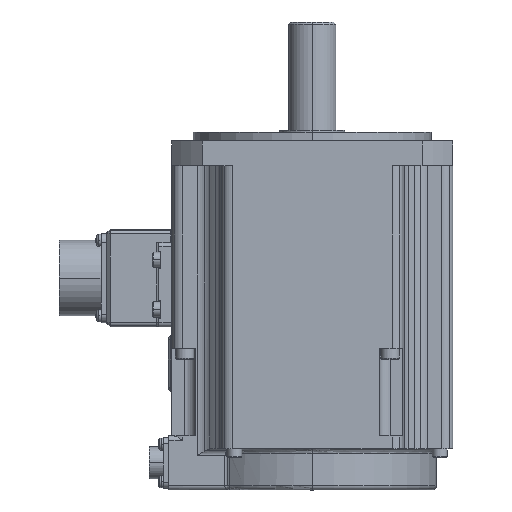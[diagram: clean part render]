
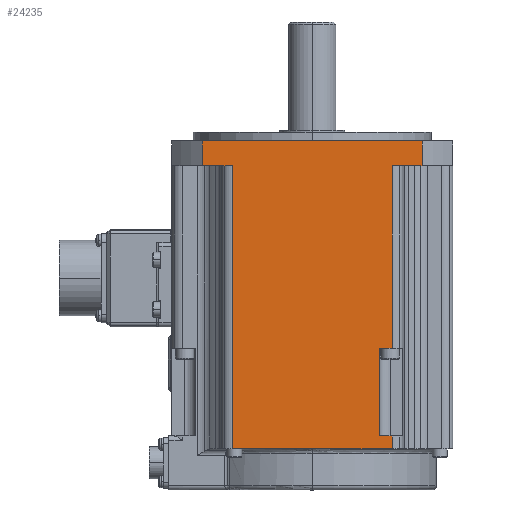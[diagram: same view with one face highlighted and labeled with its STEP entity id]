
A CAD part, left-side view. The second image highlights one B-rep face of the part: STEP entity #24235.
In plain terms, the highlighted planar face has unit normal (-1, 0, 0).
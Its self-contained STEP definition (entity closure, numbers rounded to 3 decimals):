
#21687=CARTESIAN_POINT('',(-65.,-31.,-136.5));
#21688=VERTEX_POINT('',#21687);
#21695=CARTESIAN_POINT('',(-65.,-37.,-136.5));
#21696=VERTEX_POINT('',#21695);
#21697=CARTESIAN_POINT('',(-65.,-37.,-136.5));
#21698=DIRECTION('',(0.,1.0,0.));
#21699=VECTOR('',#21698,6.);
#21700=LINE('',#21697,#21699);
#21701=EDGE_CURVE('',#21696,#21688,#21700,.T.);
#22686=CARTESIAN_POINT('',(-65.,-37.,-142.5));
#22687=VERTEX_POINT('',#22686);
#22695=CARTESIAN_POINT('',(-65.,37.,-142.5));
#22696=VERTEX_POINT('',#22695);
#22697=CARTESIAN_POINT('',(-65.,37.,-142.5));
#22698=DIRECTION('',(0.0,-1.0,0.0));
#22699=VECTOR('',#22698,74.0);
#22700=LINE('',#22697,#22699);
#22701=EDGE_CURVE('',#22696,#22687,#22700,.T.);
#22898=CARTESIAN_POINT('',(-65.,-37.,-136.5));
#22899=DIRECTION('',(0.0,0.0,-1.0));
#22900=VECTOR('',#22899,6.0);
#22901=LINE('',#22898,#22900);
#22902=EDGE_CURVE('',#21696,#22687,#22901,.T.);
#23583=CARTESIAN_POINT('',(-65.,-31.,-96.));
#23584=VERTEX_POINT('',#23583);
#23593=CARTESIAN_POINT('',(-65.,-31.,-136.5));
#23594=DIRECTION('',(0.0,0.0,1.0));
#23595=VECTOR('',#23594,40.5);
#23596=LINE('',#23593,#23595);
#23597=EDGE_CURVE('',#21688,#23584,#23596,.T.);
#23663=CARTESIAN_POINT('',(-65.,-37.,-96.));
#23664=VERTEX_POINT('',#23663);
#23665=CARTESIAN_POINT('',(-65.,-31.,-96.));
#23666=DIRECTION('',(0.0,-1.0,0.0));
#23667=VECTOR('',#23666,6.);
#23668=LINE('',#23665,#23667);
#23669=EDGE_CURVE('',#23584,#23664,#23668,.T.);
#24157=CARTESIAN_POINT('',(-65.,-37.,-11.5));
#24158=VERTEX_POINT('',#24157);
#24166=CARTESIAN_POINT('',(-65.,-37.,-11.5));
#24167=DIRECTION('',(0.0,0.0,-1.0));
#24168=VECTOR('',#24167,84.5);
#24169=LINE('',#24166,#24168);
#24170=EDGE_CURVE('',#24158,#23664,#24169,.T.);
#24176=CARTESIAN_POINT('',(-65.0,50.806,0.0));
#24177=DIRECTION('',(-1.0,0.0,0.0));
#24178=DIRECTION('',(0.0,0.0,1.0));
#24179=AXIS2_PLACEMENT_3D('',#24176,#24177,#24178);
#24180=PLANE('',#24179);
#24181=ORIENTED_EDGE('',*,*,#24170,.F.);
#24182=CARTESIAN_POINT('',(-65.0,-50.806,-11.5));
#24183=VERTEX_POINT('',#24182);
#24184=CARTESIAN_POINT('',(-65.0,-50.806,-11.5));
#24185=DIRECTION('',(0.0,1.0,0.0));
#24186=VECTOR('',#24185,13.806);
#24187=LINE('',#24184,#24186);
#24188=EDGE_CURVE('',#24183,#24158,#24187,.T.);
#24189=ORIENTED_EDGE('',*,*,#24188,.F.);
#24190=CARTESIAN_POINT('',(-65.,-50.806,0.0));
#24191=VERTEX_POINT('',#24190);
#24192=CARTESIAN_POINT('',(-65.,-50.806,0.0));
#24193=DIRECTION('',(0.0,0.0,-1.0));
#24194=VECTOR('',#24193,11.5);
#24195=LINE('',#24192,#24194);
#24196=EDGE_CURVE('',#24191,#24183,#24195,.T.);
#24197=ORIENTED_EDGE('',*,*,#24196,.F.);
#24198=CARTESIAN_POINT('',(-65.0,50.806,0.0));
#24199=VERTEX_POINT('',#24198);
#24200=CARTESIAN_POINT('',(-65.,-50.806,0.0));
#24201=DIRECTION('',(0.0,1.0,0.0));
#24202=VECTOR('',#24201,101.612);
#24203=LINE('',#24200,#24202);
#24204=EDGE_CURVE('',#24191,#24199,#24203,.T.);
#24205=ORIENTED_EDGE('',*,*,#24204,.T.);
#24206=CARTESIAN_POINT('',(-65.0,50.806,-11.5));
#24207=VERTEX_POINT('',#24206);
#24208=CARTESIAN_POINT('',(-65.0,50.806,0.0));
#24209=DIRECTION('',(0.0,0.0,-1.0));
#24210=VECTOR('',#24209,11.5);
#24211=LINE('',#24208,#24210);
#24212=EDGE_CURVE('',#24199,#24207,#24211,.T.);
#24213=ORIENTED_EDGE('',*,*,#24212,.T.);
#24214=CARTESIAN_POINT('',(-65.0,37.,-11.5));
#24215=VERTEX_POINT('',#24214);
#24216=CARTESIAN_POINT('',(-65.0,37.,-11.5));
#24217=DIRECTION('',(0.0,1.0,0.0));
#24218=VECTOR('',#24217,13.806);
#24219=LINE('',#24216,#24218);
#24220=EDGE_CURVE('',#24215,#24207,#24219,.T.);
#24221=ORIENTED_EDGE('',*,*,#24220,.F.);
#24222=CARTESIAN_POINT('',(-65.,37.,-142.5));
#24223=DIRECTION('',(0.0,0.0,1.0));
#24224=VECTOR('',#24223,131.);
#24225=LINE('',#24222,#24224);
#24226=EDGE_CURVE('',#22696,#24215,#24225,.T.);
#24227=ORIENTED_EDGE('',*,*,#24226,.F.);
#24228=ORIENTED_EDGE('',*,*,#22701,.T.);
#24229=ORIENTED_EDGE('',*,*,#22902,.F.);
#24230=ORIENTED_EDGE('',*,*,#21701,.T.);
#24231=ORIENTED_EDGE('',*,*,#23597,.T.);
#24232=ORIENTED_EDGE('',*,*,#23669,.T.);
#24233=EDGE_LOOP('',(#24181,#24189,#24197,#24205,#24213,#24221,#24227,#24228,#24229,#24230,#24231,#24232));
#24234=FACE_OUTER_BOUND('',#24233,.T.);
#24235=ADVANCED_FACE('',(#24234),#24180,.T.);
